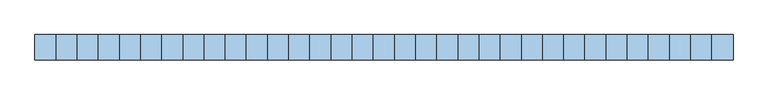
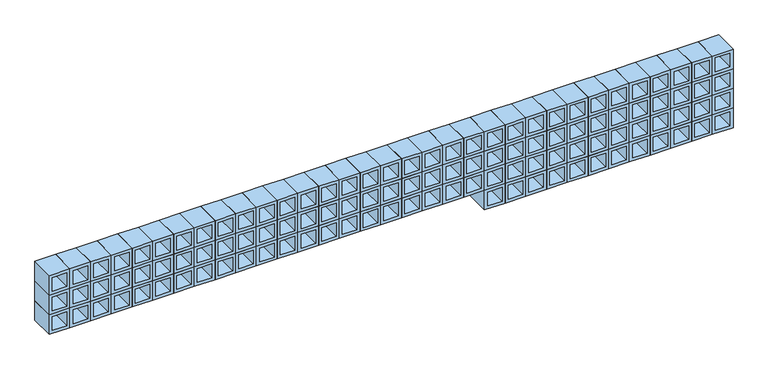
"""IFC4 building model written with IfcOpenShell, lengths in millimetres: window geometry, Concrete_Cobog_Hollow_block_14694 : Cobogó 3,25 x 0,80 m."""

from ifc_helpers import new_model, si_unit, frame, origin, place, context, project, spatial, polyline, outline, extrude, source, transform, mapped, element, save


def window_60306791(model_context):
    return source(origin(), model_context, "Body", "SweptSolid", [
        extrude(outline(polyline([(1400.0, 1650.0), (1500.0, 1650.0), (1500.0, 1550.0), (1400.0, 1550.0), (1400.0, 1650.0)]), holes=[polyline([(1485.0, 1565.0), (1485.0, 1635.0), (1415.0, 1635.0), (1415.0, 1565.0), (1485.0, 1565.0)])]), frame((0.0, -60.0, 0.0), z_axis=(0.0, 1.0, 0.0), x_axis=(0.0, 0.0, 1.0)), (0.0, 0.0, 1.0), 120.0),
        extrude(outline(polyline([(1400.0, 1550.0), (1500.0, 1550.0), (1500.0, 1450.0), (1400.0, 1450.0), (1400.0, 1550.0)]), holes=[polyline([(1485.0, 1465.0), (1485.0, 1535.0), (1415.0, 1535.0), (1415.0, 1465.0), (1485.0, 1465.0)])]), frame((0.0, -60.0, 0.0), z_axis=(0.0, 1.0, 0.0), x_axis=(0.0, 0.0, 1.0)), (0.0, 0.0, 1.0), 120.0),
        extrude(outline(polyline([(1400.0, 1450.0), (1500.0, 1450.0), (1500.0, 1350.0), (1400.0, 1350.0), (1400.0, 1450.0)]), holes=[polyline([(1485.0, 1365.0), (1485.0, 1435.0), (1415.0, 1435.0), (1415.0, 1365.0), (1485.0, 1365.0)])]), frame((0.0, -60.0, 0.0), z_axis=(0.0, 1.0, 0.0), x_axis=(0.0, 0.0, 1.0)), (0.0, 0.0, 1.0), 120.0),
        extrude(outline(polyline([(1400.0, 1350.0), (1500.0, 1350.0), (1500.0, 1250.0), (1400.0, 1250.0), (1400.0, 1350.0)]), holes=[polyline([(1485.0, 1265.0), (1485.0, 1335.0), (1415.0, 1335.0), (1415.0, 1265.0), (1485.0, 1265.0)])]), frame((0.0, -60.0, 0.0), z_axis=(0.0, 1.0, 0.0), x_axis=(0.0, 0.0, 1.0)), (0.0, 0.0, 1.0), 120.0),
        extrude(outline(polyline([(1400.0, 1250.0), (1500.0, 1250.0), (1500.0, 1150.0), (1400.0, 1150.0), (1400.0, 1250.0)]), holes=[polyline([(1485.0, 1165.0), (1485.0, 1235.0), (1415.0, 1235.0), (1415.0, 1165.0), (1485.0, 1165.0)])]), frame((0.0, -60.0, 0.0), z_axis=(0.0, 1.0, 0.0), x_axis=(0.0, 0.0, 1.0)), (0.0, 0.0, 1.0), 120.0),
        extrude(outline(polyline([(1400.0, 1150.0), (1500.0, 1150.0), (1500.0, 1050.0), (1400.0, 1050.0), (1400.0, 1150.0)]), holes=[polyline([(1485.0, 1065.0), (1485.0, 1135.0), (1415.0, 1135.0), (1415.0, 1065.0), (1485.0, 1065.0)])]), frame((0.0, -60.0, 0.0), z_axis=(0.0, 1.0, 0.0), x_axis=(0.0, 0.0, 1.0)), (0.0, 0.0, 1.0), 120.0),
        extrude(outline(polyline([(1400.0, 1050.0), (1500.0, 1050.0), (1500.0, 950.0), (1400.0, 950.0), (1400.0, 1050.0)]), holes=[polyline([(1485.0, 965.0), (1485.0, 1035.0), (1415.0, 1035.0), (1415.0, 965.0), (1485.0, 965.0)])]), frame((0.0, -60.0, 0.0), z_axis=(0.0, 1.0, 0.0), x_axis=(0.0, 0.0, 1.0)), (0.0, 0.0, 1.0), 120.0),
        extrude(outline(polyline([(1400.0, 950.0), (1500.0, 950.0), (1500.0, 850.0), (1400.0, 850.0), (1400.0, 950.0)]), holes=[polyline([(1485.0, 865.0), (1485.0, 935.0), (1415.0, 935.0), (1415.0, 865.0), (1485.0, 865.0)])]), frame((0.0, -60.0, 0.0), z_axis=(0.0, 1.0, 0.0), x_axis=(0.0, 0.0, 1.0)), (0.0, 0.0, 1.0), 120.0),
        extrude(outline(polyline([(1400.0, 850.0), (1500.0, 850.0), (1500.0, 750.0), (1400.0, 750.0), (1400.0, 850.0)]), holes=[polyline([(1485.0, 765.0), (1485.0, 835.0), (1415.0, 835.0), (1415.0, 765.0), (1485.0, 765.0)])]), frame((0.0, -60.0, 0.0), z_axis=(0.0, 1.0, 0.0), x_axis=(0.0, 0.0, 1.0)), (0.0, 0.0, 1.0), 120.0),
        extrude(outline(polyline([(1400.0, 750.0), (1500.0, 750.0), (1500.0, 650.0), (1400.0, 650.0), (1400.0, 750.0)]), holes=[polyline([(1485.0, 665.0), (1485.0, 735.0), (1415.0, 735.0), (1415.0, 665.0), (1485.0, 665.0)])]), frame((0.0, -60.0, 0.0), z_axis=(0.0, 1.0, 0.0), x_axis=(0.0, 0.0, 1.0)), (0.0, 0.0, 1.0), 120.0),
        extrude(outline(polyline([(1400.0, 650.0), (1500.0, 650.0), (1500.0, 550.0), (1400.0, 550.0), (1400.0, 650.0)]), holes=[polyline([(1485.0, 565.0), (1485.0, 635.0), (1415.0, 635.0), (1415.0, 565.0), (1485.0, 565.0)])]), frame((0.0, -60.0, 0.0), z_axis=(0.0, 1.0, 0.0), x_axis=(0.0, 0.0, 1.0)), (0.0, 0.0, 1.0), 120.0),
        extrude(outline(polyline([(1400.0, 550.0), (1500.0, 550.0), (1500.0, 450.0), (1400.0, 450.0), (1400.0, 550.0)]), holes=[polyline([(1485.0, 465.0), (1485.0, 535.0), (1415.0, 535.0), (1415.0, 465.0), (1485.0, 465.0)])]), frame((0.0, -60.0, 0.0), z_axis=(0.0, 1.0, 0.0), x_axis=(0.0, 0.0, 1.0)), (0.0, 0.0, 1.0), 120.0),
        extrude(outline(polyline([(1400.0, 450.0), (1500.0, 450.0), (1500.0, 350.0), (1400.0, 350.0), (1400.0, 450.0)]), holes=[polyline([(1485.0, 365.0), (1485.0, 435.0), (1415.0, 435.0), (1415.0, 365.0), (1485.0, 365.0)])]), frame((0.0, -60.0, 0.0), z_axis=(0.0, 1.0, 0.0), x_axis=(0.0, 0.0, 1.0)), (0.0, 0.0, 1.0), 120.0),
        extrude(outline(polyline([(1400.0, 350.0), (1500.0, 350.0), (1500.0, 250.0), (1400.0, 250.0), (1400.0, 350.0)]), holes=[polyline([(1485.0, 265.0), (1485.0, 335.0), (1415.0, 335.0), (1415.0, 265.0), (1485.0, 265.0)])]), frame((0.0, -60.0, 0.0), z_axis=(0.0, 1.0, 0.0), x_axis=(0.0, 0.0, 1.0)), (0.0, 0.0, 1.0), 120.0),
        extrude(outline(polyline([(1400.0, 250.0), (1500.0, 250.0), (1500.0, 150.0), (1400.0, 150.0), (1400.0, 250.0)]), holes=[polyline([(1485.0, 165.0), (1485.0, 235.0), (1415.0, 235.0), (1415.0, 165.0), (1485.0, 165.0)])]), frame((0.0, -60.0, 0.0), z_axis=(0.0, 1.0, 0.0), x_axis=(0.0, 0.0, 1.0)), (0.0, 0.0, 1.0), 120.0),
        extrude(outline(polyline([(1400.0, 150.0), (1500.0, 150.0), (1500.0, 50.0), (1400.0, 50.0), (1400.0, 150.0)]), holes=[polyline([(1485.0, 65.0), (1485.0, 135.0), (1415.0, 135.0), (1415.0, 65.0), (1485.0, 65.0)])]), frame((0.0, -60.0, 0.0), z_axis=(0.0, 1.0, 0.0), x_axis=(0.0, 0.0, 1.0)), (0.0, 0.0, 1.0), 120.0),
        extrude(outline(polyline([(1400.0, 50.0), (1500.0, 50.0), (1500.0, -50.0), (1400.0, -50.0), (1400.0, 50.0)]), holes=[polyline([(1485.0, -35.0), (1485.0, 35.0), (1415.0, 35.0), (1415.0, -35.0), (1485.0, -35.0)])]), frame((0.0, -60.0, 0.0), z_axis=(0.0, 1.0, 0.0), x_axis=(0.0, 0.0, 1.0)), (0.0, 0.0, 1.0), 120.0),
        extrude(outline(polyline([(1400.0, -50.0), (1500.0, -50.0), (1500.0, -150.0), (1400.0, -150.0), (1400.0, -50.0)]), holes=[polyline([(1485.0, -135.0), (1485.0, -65.0), (1415.0, -65.0), (1415.0, -135.0), (1485.0, -135.0)])]), frame((0.0, -60.0, 0.0), z_axis=(0.0, 1.0, 0.0), x_axis=(0.0, 0.0, 1.0)), (0.0, 0.0, 1.0), 120.0),
        extrude(outline(polyline([(1400.0, -150.0), (1500.0, -150.0), (1500.0, -250.0), (1400.0, -250.0), (1400.0, -150.0)]), holes=[polyline([(1485.0, -235.0), (1485.0, -165.0), (1415.0, -165.0), (1415.0, -235.0), (1485.0, -235.0)])]), frame((0.0, -60.0, 0.0), z_axis=(0.0, 1.0, 0.0), x_axis=(0.0, 0.0, 1.0)), (0.0, 0.0, 1.0), 120.0),
        extrude(outline(polyline([(1400.0, -250.0), (1500.0, -250.0), (1500.0, -350.0), (1400.0, -350.0), (1400.0, -250.0)]), holes=[polyline([(1485.0, -335.0), (1485.0, -265.0), (1415.0, -265.0), (1415.0, -335.0), (1485.0, -335.0)])]), frame((0.0, -60.0, 0.0), z_axis=(0.0, 1.0, 0.0), x_axis=(0.0, 0.0, 1.0)), (0.0, 0.0, 1.0), 120.0),
        extrude(outline(polyline([(1400.0, -350.0), (1500.0, -350.0), (1500.0, -450.0), (1400.0, -450.0), (1400.0, -350.0)]), holes=[polyline([(1485.0, -435.0), (1485.0, -365.0), (1415.0, -365.0), (1415.0, -435.0), (1485.0, -435.0)])]), frame((0.0, -60.0, 0.0), z_axis=(0.0, 1.0, 0.0), x_axis=(0.0, 0.0, 1.0)), (0.0, 0.0, 1.0), 120.0),
        extrude(outline(polyline([(1400.0, -450.0), (1500.0, -450.0), (1500.0, -550.0), (1400.0, -550.0), (1400.0, -450.0)]), holes=[polyline([(1485.0, -535.0), (1485.0, -465.0), (1415.0, -465.0), (1415.0, -535.0), (1485.0, -535.0)])]), frame((0.0, -60.0, 0.0), z_axis=(0.0, 1.0, 0.0), x_axis=(0.0, 0.0, 1.0)), (0.0, 0.0, 1.0), 120.0),
        extrude(outline(polyline([(1400.0, -550.0), (1500.0, -550.0), (1500.0, -650.0), (1400.0, -650.0), (1400.0, -550.0)]), holes=[polyline([(1485.0, -635.0), (1485.0, -565.0), (1415.0, -565.0), (1415.0, -635.0), (1485.0, -635.0)])]), frame((0.0, -60.0, 0.0), z_axis=(0.0, 1.0, 0.0), x_axis=(0.0, 0.0, 1.0)), (0.0, 0.0, 1.0), 120.0),
        extrude(outline(polyline([(1400.0, -650.0), (1500.0, -650.0), (1500.0, -750.0), (1400.0, -750.0), (1400.0, -650.0)]), holes=[polyline([(1485.0, -735.0), (1485.0, -665.0), (1415.0, -665.0), (1415.0, -735.0), (1485.0, -735.0)])]), frame((0.0, -60.0, 0.0), z_axis=(0.0, 1.0, 0.0), x_axis=(0.0, 0.0, 1.0)), (0.0, 0.0, 1.0), 120.0),
        extrude(outline(polyline([(1400.0, -750.0), (1500.0, -750.0), (1500.0, -850.0), (1400.0, -850.0), (1400.0, -750.0)]), holes=[polyline([(1485.0, -835.0), (1485.0, -765.0), (1415.0, -765.0), (1415.0, -835.0), (1485.0, -835.0)])]), frame((0.0, -60.0, 0.0), z_axis=(0.0, 1.0, 0.0), x_axis=(0.0, 0.0, 1.0)), (0.0, 0.0, 1.0), 120.0),
        extrude(outline(polyline([(1400.0, -850.0), (1500.0, -850.0), (1500.0, -950.0), (1400.0, -950.0), (1400.0, -850.0)]), holes=[polyline([(1485.0, -935.0), (1485.0, -865.0), (1415.0, -865.0), (1415.0, -935.0), (1485.0, -935.0)])]), frame((0.0, -60.0, 0.0), z_axis=(0.0, 1.0, 0.0), x_axis=(0.0, 0.0, 1.0)), (0.0, 0.0, 1.0), 120.0),
        extrude(outline(polyline([(1400.0, -950.0), (1500.0, -950.0), (1500.0, -1050.0), (1400.0, -1050.0), (1400.0, -950.0)]), holes=[polyline([(1485.0, -1035.0), (1485.0, -965.0), (1415.0, -965.0), (1415.0, -1035.0), (1485.0, -1035.0)])]), frame((0.0, -60.0, 0.0), z_axis=(0.0, 1.0, 0.0), x_axis=(0.0, 0.0, 1.0)), (0.0, 0.0, 1.0), 120.0),
        extrude(outline(polyline([(1400.0, -1050.0), (1500.0, -1050.0), (1500.0, -1150.0), (1400.0, -1150.0), (1400.0, -1050.0)]), holes=[polyline([(1485.0, -1135.0), (1485.0, -1065.0), (1415.0, -1065.0), (1415.0, -1135.0), (1485.0, -1135.0)])]), frame((0.0, -60.0, 0.0), z_axis=(0.0, 1.0, 0.0), x_axis=(0.0, 0.0, 1.0)), (0.0, 0.0, 1.0), 120.0),
        extrude(outline(polyline([(1400.0, -1150.0), (1500.0, -1150.0), (1500.0, -1250.0), (1400.0, -1250.0), (1400.0, -1150.0)]), holes=[polyline([(1485.0, -1235.0), (1485.0, -1165.0), (1415.0, -1165.0), (1415.0, -1235.0), (1485.0, -1235.0)])]), frame((0.0, -60.0, 0.0), z_axis=(0.0, 1.0, 0.0), x_axis=(0.0, 0.0, 1.0)), (0.0, 0.0, 1.0), 120.0),
        extrude(outline(polyline([(1400.0, -1250.0), (1500.0, -1250.0), (1500.0, -1350.0), (1400.0, -1350.0), (1400.0, -1250.0)]), holes=[polyline([(1485.0, -1335.0), (1485.0, -1265.0), (1415.0, -1265.0), (1415.0, -1335.0), (1485.0, -1335.0)])]), frame((0.0, -60.0, 0.0), z_axis=(0.0, 1.0, 0.0), x_axis=(0.0, 0.0, 1.0)), (0.0, 0.0, 1.0), 120.0),
        extrude(outline(polyline([(1400.0, -1350.0), (1500.0, -1350.0), (1500.0, -1450.0), (1400.0, -1450.0), (1400.0, -1350.0)]), holes=[polyline([(1485.0, -1435.0), (1485.0, -1365.0), (1415.0, -1365.0), (1415.0, -1435.0), (1485.0, -1435.0)])]), frame((0.0, -60.0, 0.0), z_axis=(0.0, 1.0, 0.0), x_axis=(0.0, 0.0, 1.0)), (0.0, 0.0, 1.0), 120.0),
        extrude(outline(polyline([(1400.0, -1450.0), (1500.0, -1450.0), (1500.0, -1550.0), (1400.0, -1550.0), (1400.0, -1450.0)]), holes=[polyline([(1485.0, -1535.0), (1485.0, -1465.0), (1415.0, -1465.0), (1415.0, -1535.0), (1485.0, -1535.0)])]), frame((0.0, -60.0, 0.0), z_axis=(0.0, 1.0, 0.0), x_axis=(0.0, 0.0, 1.0)), (0.0, 0.0, 1.0), 120.0),
        extrude(outline(polyline([(1400.0, -1550.0), (1500.0, -1550.0), (1500.0, -1650.0), (1400.0, -1650.0), (1400.0, -1550.0)]), holes=[polyline([(1485.0, -1635.0), (1485.0, -1565.0), (1415.0, -1565.0), (1415.0, -1635.0), (1485.0, -1635.0)])]), frame((0.0, -60.0, 0.0), z_axis=(0.0, 1.0, 0.0), x_axis=(0.0, 0.0, 1.0)), (0.0, 0.0, 1.0), 120.0),
        extrude(outline(polyline([(1300.0, 1650.0), (1400.0, 1650.0), (1400.0, 1550.0), (1300.0, 1550.0), (1300.0, 1650.0)]), holes=[polyline([(1385.0, 1565.0), (1385.0, 1635.0), (1315.0, 1635.0), (1315.0, 1565.0), (1385.0, 1565.0)])]), frame((0.0, -60.0, 0.0), z_axis=(0.0, 1.0, 0.0), x_axis=(0.0, 0.0, 1.0)), (0.0, 0.0, 1.0), 120.0),
        extrude(outline(polyline([(1300.0, 1550.0), (1400.0, 1550.0), (1400.0, 1450.0), (1300.0, 1450.0), (1300.0, 1550.0)]), holes=[polyline([(1385.0, 1465.0), (1385.0, 1535.0), (1315.0, 1535.0), (1315.0, 1465.0), (1385.0, 1465.0)])]), frame((0.0, -60.0, 0.0), z_axis=(0.0, 1.0, 0.0), x_axis=(0.0, 0.0, 1.0)), (0.0, 0.0, 1.0), 120.0),
        extrude(outline(polyline([(1300.0, 1450.0), (1400.0, 1450.0), (1400.0, 1350.0), (1300.0, 1350.0), (1300.0, 1450.0)]), holes=[polyline([(1385.0, 1365.0), (1385.0, 1435.0), (1315.0, 1435.0), (1315.0, 1365.0), (1385.0, 1365.0)])]), frame((0.0, -60.0, 0.0), z_axis=(0.0, 1.0, 0.0), x_axis=(0.0, 0.0, 1.0)), (0.0, 0.0, 1.0), 120.0),
        extrude(outline(polyline([(1300.0, 1350.0), (1400.0, 1350.0), (1400.0, 1250.0), (1300.0, 1250.0), (1300.0, 1350.0)]), holes=[polyline([(1385.0, 1265.0), (1385.0, 1335.0), (1315.0, 1335.0), (1315.0, 1265.0), (1385.0, 1265.0)])]), frame((0.0, -60.0, 0.0), z_axis=(0.0, 1.0, 0.0), x_axis=(0.0, 0.0, 1.0)), (0.0, 0.0, 1.0), 120.0),
        extrude(outline(polyline([(1300.0, 1250.0), (1400.0, 1250.0), (1400.0, 1150.0), (1300.0, 1150.0), (1300.0, 1250.0)]), holes=[polyline([(1385.0, 1165.0), (1385.0, 1235.0), (1315.0, 1235.0), (1315.0, 1165.0), (1385.0, 1165.0)])]), frame((0.0, -60.0, 0.0), z_axis=(0.0, 1.0, 0.0), x_axis=(0.0, 0.0, 1.0)), (0.0, 0.0, 1.0), 120.0),
        extrude(outline(polyline([(1300.0, 1150.0), (1400.0, 1150.0), (1400.0, 1050.0), (1300.0, 1050.0), (1300.0, 1150.0)]), holes=[polyline([(1385.0, 1065.0), (1385.0, 1135.0), (1315.0, 1135.0), (1315.0, 1065.0), (1385.0, 1065.0)])]), frame((0.0, -60.0, 0.0), z_axis=(0.0, 1.0, 0.0), x_axis=(0.0, 0.0, 1.0)), (0.0, 0.0, 1.0), 120.0),
        extrude(outline(polyline([(1300.0, 1050.0), (1400.0, 1050.0), (1400.0, 950.0), (1300.0, 950.0), (1300.0, 1050.0)]), holes=[polyline([(1385.0, 965.0), (1385.0, 1035.0), (1315.0, 1035.0), (1315.0, 965.0), (1385.0, 965.0)])]), frame((0.0, -60.0, 0.0), z_axis=(0.0, 1.0, 0.0), x_axis=(0.0, 0.0, 1.0)), (0.0, 0.0, 1.0), 120.0),
        extrude(outline(polyline([(1300.0, 950.0), (1400.0, 950.0), (1400.0, 850.0), (1300.0, 850.0), (1300.0, 950.0)]), holes=[polyline([(1385.0, 865.0), (1385.0, 935.0), (1315.0, 935.0), (1315.0, 865.0), (1385.0, 865.0)])]), frame((0.0, -60.0, 0.0), z_axis=(0.0, 1.0, 0.0), x_axis=(0.0, 0.0, 1.0)), (0.0, 0.0, 1.0), 120.0),
        extrude(outline(polyline([(1300.0, 850.0), (1400.0, 850.0), (1400.0, 750.0), (1300.0, 750.0), (1300.0, 850.0)]), holes=[polyline([(1385.0, 765.0), (1385.0, 835.0), (1315.0, 835.0), (1315.0, 765.0), (1385.0, 765.0)])]), frame((0.0, -60.0, 0.0), z_axis=(0.0, 1.0, 0.0), x_axis=(0.0, 0.0, 1.0)), (0.0, 0.0, 1.0), 120.0),
        extrude(outline(polyline([(1300.0, 750.0), (1400.0, 750.0), (1400.0, 650.0), (1300.0, 650.0), (1300.0, 750.0)]), holes=[polyline([(1385.0, 665.0), (1385.0, 735.0), (1315.0, 735.0), (1315.0, 665.0), (1385.0, 665.0)])]), frame((0.0, -60.0, 0.0), z_axis=(0.0, 1.0, 0.0), x_axis=(0.0, 0.0, 1.0)), (0.0, 0.0, 1.0), 120.0),
        extrude(outline(polyline([(1300.0, 650.0), (1400.0, 650.0), (1400.0, 550.0), (1300.0, 550.0), (1300.0, 650.0)]), holes=[polyline([(1385.0, 565.0), (1385.0, 635.0), (1315.0, 635.0), (1315.0, 565.0), (1385.0, 565.0)])]), frame((0.0, -60.0, 0.0), z_axis=(0.0, 1.0, 0.0), x_axis=(0.0, 0.0, 1.0)), (0.0, 0.0, 1.0), 120.0),
        extrude(outline(polyline([(1300.0, 550.0), (1400.0, 550.0), (1400.0, 450.0), (1300.0, 450.0), (1300.0, 550.0)]), holes=[polyline([(1385.0, 465.0), (1385.0, 535.0), (1315.0, 535.0), (1315.0, 465.0), (1385.0, 465.0)])]), frame((0.0, -60.0, 0.0), z_axis=(0.0, 1.0, 0.0), x_axis=(0.0, 0.0, 1.0)), (0.0, 0.0, 1.0), 120.0),
        extrude(outline(polyline([(1300.0, 450.0), (1400.0, 450.0), (1400.0, 350.0), (1300.0, 350.0), (1300.0, 450.0)]), holes=[polyline([(1385.0, 365.0), (1385.0, 435.0), (1315.0, 435.0), (1315.0, 365.0), (1385.0, 365.0)])]), frame((0.0, -60.0, 0.0), z_axis=(0.0, 1.0, 0.0), x_axis=(0.0, 0.0, 1.0)), (0.0, 0.0, 1.0), 120.0),
        extrude(outline(polyline([(1300.0, 350.0), (1400.0, 350.0), (1400.0, 250.0), (1300.0, 250.0), (1300.0, 350.0)]), holes=[polyline([(1385.0, 265.0), (1385.0, 335.0), (1315.0, 335.0), (1315.0, 265.0), (1385.0, 265.0)])]), frame((0.0, -60.0, 0.0), z_axis=(0.0, 1.0, 0.0), x_axis=(0.0, 0.0, 1.0)), (0.0, 0.0, 1.0), 120.0),
        extrude(outline(polyline([(1300.0, 250.0), (1400.0, 250.0), (1400.0, 150.0), (1300.0, 150.0), (1300.0, 250.0)]), holes=[polyline([(1385.0, 165.0), (1385.0, 235.0), (1315.0, 235.0), (1315.0, 165.0), (1385.0, 165.0)])]), frame((0.0, -60.0, 0.0), z_axis=(0.0, 1.0, 0.0), x_axis=(0.0, 0.0, 1.0)), (0.0, 0.0, 1.0), 120.0),
        extrude(outline(polyline([(1300.0, 150.0), (1400.0, 150.0), (1400.0, 50.0), (1300.0, 50.0), (1300.0, 150.0)]), holes=[polyline([(1385.0, 65.0), (1385.0, 135.0), (1315.0, 135.0), (1315.0, 65.0), (1385.0, 65.0)])]), frame((0.0, -60.0, 0.0), z_axis=(0.0, 1.0, 0.0), x_axis=(0.0, 0.0, 1.0)), (0.0, 0.0, 1.0), 120.0),
        extrude(outline(polyline([(1300.0, 50.0), (1400.0, 50.0), (1400.0, -50.0), (1300.0, -50.0), (1300.0, 50.0)]), holes=[polyline([(1385.0, -35.0), (1385.0, 35.0), (1315.0, 35.0), (1315.0, -35.0), (1385.0, -35.0)])]), frame((0.0, -60.0, 0.0), z_axis=(0.0, 1.0, 0.0), x_axis=(0.0, 0.0, 1.0)), (0.0, 0.0, 1.0), 120.0),
        extrude(outline(polyline([(1300.0, -50.0), (1400.0, -50.0), (1400.0, -150.0), (1300.0, -150.0), (1300.0, -50.0)]), holes=[polyline([(1385.0, -135.0), (1385.0, -65.0), (1315.0, -65.0), (1315.0, -135.0), (1385.0, -135.0)])]), frame((0.0, -60.0, 0.0), z_axis=(0.0, 1.0, 0.0), x_axis=(0.0, 0.0, 1.0)), (0.0, 0.0, 1.0), 120.0),
        extrude(outline(polyline([(1300.0, -150.0), (1400.0, -150.0), (1400.0, -250.0), (1300.0, -250.0), (1300.0, -150.0)]), holes=[polyline([(1385.0, -235.0), (1385.0, -165.0), (1315.0, -165.0), (1315.0, -235.0), (1385.0, -235.0)])]), frame((0.0, -60.0, 0.0), z_axis=(0.0, 1.0, 0.0), x_axis=(0.0, 0.0, 1.0)), (0.0, 0.0, 1.0), 120.0),
        extrude(outline(polyline([(1300.0, -250.0), (1400.0, -250.0), (1400.0, -350.0), (1300.0, -350.0), (1300.0, -250.0)]), holes=[polyline([(1385.0, -335.0), (1385.0, -265.0), (1315.0, -265.0), (1315.0, -335.0), (1385.0, -335.0)])]), frame((0.0, -60.0, 0.0), z_axis=(0.0, 1.0, 0.0), x_axis=(0.0, 0.0, 1.0)), (0.0, 0.0, 1.0), 120.0),
        extrude(outline(polyline([(1300.0, -350.0), (1400.0, -350.0), (1400.0, -450.0), (1300.0, -450.0), (1300.0, -350.0)]), holes=[polyline([(1385.0, -435.0), (1385.0, -365.0), (1315.0, -365.0), (1315.0, -435.0), (1385.0, -435.0)])]), frame((0.0, -60.0, 0.0), z_axis=(0.0, 1.0, 0.0), x_axis=(0.0, 0.0, 1.0)), (0.0, 0.0, 1.0), 120.0),
        extrude(outline(polyline([(1300.0, -450.0), (1400.0, -450.0), (1400.0, -550.0), (1300.0, -550.0), (1300.0, -450.0)]), holes=[polyline([(1385.0, -535.0), (1385.0, -465.0), (1315.0, -465.0), (1315.0, -535.0), (1385.0, -535.0)])]), frame((0.0, -60.0, 0.0), z_axis=(0.0, 1.0, 0.0), x_axis=(0.0, 0.0, 1.0)), (0.0, 0.0, 1.0), 120.0),
        extrude(outline(polyline([(1300.0, -550.0), (1400.0, -550.0), (1400.0, -650.0), (1300.0, -650.0), (1300.0, -550.0)]), holes=[polyline([(1385.0, -635.0), (1385.0, -565.0), (1315.0, -565.0), (1315.0, -635.0), (1385.0, -635.0)])]), frame((0.0, -60.0, 0.0), z_axis=(0.0, 1.0, 0.0), x_axis=(0.0, 0.0, 1.0)), (0.0, 0.0, 1.0), 120.0),
        extrude(outline(polyline([(1300.0, -650.0), (1400.0, -650.0), (1400.0, -750.0), (1300.0, -750.0), (1300.0, -650.0)]), holes=[polyline([(1385.0, -735.0), (1385.0, -665.0), (1315.0, -665.0), (1315.0, -735.0), (1385.0, -735.0)])]), frame((0.0, -60.0, 0.0), z_axis=(0.0, 1.0, 0.0), x_axis=(0.0, 0.0, 1.0)), (0.0, 0.0, 1.0), 120.0),
        extrude(outline(polyline([(1300.0, -750.0), (1400.0, -750.0), (1400.0, -850.0), (1300.0, -850.0), (1300.0, -750.0)]), holes=[polyline([(1385.0, -835.0), (1385.0, -765.0), (1315.0, -765.0), (1315.0, -835.0), (1385.0, -835.0)])]), frame((0.0, -60.0, 0.0), z_axis=(0.0, 1.0, 0.0), x_axis=(0.0, 0.0, 1.0)), (0.0, 0.0, 1.0), 120.0),
        extrude(outline(polyline([(1300.0, -850.0), (1400.0, -850.0), (1400.0, -950.0), (1300.0, -950.0), (1300.0, -850.0)]), holes=[polyline([(1385.0, -935.0), (1385.0, -865.0), (1315.0, -865.0), (1315.0, -935.0), (1385.0, -935.0)])]), frame((0.0, -60.0, 0.0), z_axis=(0.0, 1.0, 0.0), x_axis=(0.0, 0.0, 1.0)), (0.0, 0.0, 1.0), 120.0),
        extrude(outline(polyline([(1300.0, -950.0), (1400.0, -950.0), (1400.0, -1050.0), (1300.0, -1050.0), (1300.0, -950.0)]), holes=[polyline([(1385.0, -1035.0), (1385.0, -965.0), (1315.0, -965.0), (1315.0, -1035.0), (1385.0, -1035.0)])]), frame((0.0, -60.0, 0.0), z_axis=(0.0, 1.0, 0.0), x_axis=(0.0, 0.0, 1.0)), (0.0, 0.0, 1.0), 120.0),
        extrude(outline(polyline([(1300.0, -1050.0), (1400.0, -1050.0), (1400.0, -1150.0), (1300.0, -1150.0), (1300.0, -1050.0)]), holes=[polyline([(1385.0, -1135.0), (1385.0, -1065.0), (1315.0, -1065.0), (1315.0, -1135.0), (1385.0, -1135.0)])]), frame((0.0, -60.0, 0.0), z_axis=(0.0, 1.0, 0.0), x_axis=(0.0, 0.0, 1.0)), (0.0, 0.0, 1.0), 120.0),
        extrude(outline(polyline([(1300.0, -1150.0), (1400.0, -1150.0), (1400.0, -1250.0), (1300.0, -1250.0), (1300.0, -1150.0)]), holes=[polyline([(1385.0, -1235.0), (1385.0, -1165.0), (1315.0, -1165.0), (1315.0, -1235.0), (1385.0, -1235.0)])]), frame((0.0, -60.0, 0.0), z_axis=(0.0, 1.0, 0.0), x_axis=(0.0, 0.0, 1.0)), (0.0, 0.0, 1.0), 120.0),
        extrude(outline(polyline([(1300.0, -1250.0), (1400.0, -1250.0), (1400.0, -1350.0), (1300.0, -1350.0), (1300.0, -1250.0)]), holes=[polyline([(1385.0, -1335.0), (1385.0, -1265.0), (1315.0, -1265.0), (1315.0, -1335.0), (1385.0, -1335.0)])]), frame((0.0, -60.0, 0.0), z_axis=(0.0, 1.0, 0.0), x_axis=(0.0, 0.0, 1.0)), (0.0, 0.0, 1.0), 120.0),
        extrude(outline(polyline([(1300.0, -1350.0), (1400.0, -1350.0), (1400.0, -1450.0), (1300.0, -1450.0), (1300.0, -1350.0)]), holes=[polyline([(1385.0, -1435.0), (1385.0, -1365.0), (1315.0, -1365.0), (1315.0, -1435.0), (1385.0, -1435.0)])]), frame((0.0, -60.0, 0.0), z_axis=(0.0, 1.0, 0.0), x_axis=(0.0, 0.0, 1.0)), (0.0, 0.0, 1.0), 120.0),
        extrude(outline(polyline([(1300.0, -1450.0), (1400.0, -1450.0), (1400.0, -1550.0), (1300.0, -1550.0), (1300.0, -1450.0)]), holes=[polyline([(1385.0, -1535.0), (1385.0, -1465.0), (1315.0, -1465.0), (1315.0, -1535.0), (1385.0, -1535.0)])]), frame((0.0, -60.0, 0.0), z_axis=(0.0, 1.0, 0.0), x_axis=(0.0, 0.0, 1.0)), (0.0, 0.0, 1.0), 120.0),
        extrude(outline(polyline([(1300.0, -1550.0), (1400.0, -1550.0), (1400.0, -1650.0), (1300.0, -1650.0), (1300.0, -1550.0)]), holes=[polyline([(1385.0, -1635.0), (1385.0, -1565.0), (1315.0, -1565.0), (1315.0, -1635.0), (1385.0, -1635.0)])]), frame((0.0, -60.0, 0.0), z_axis=(0.0, 1.0, 0.0), x_axis=(0.0, 0.0, 1.0)), (0.0, 0.0, 1.0), 120.0),
        extrude(outline(polyline([(1200.0, 1650.0), (1300.0, 1650.0), (1300.0, 1550.0), (1200.0, 1550.0), (1200.0, 1650.0)]), holes=[polyline([(1285.0, 1565.0), (1285.0, 1635.0), (1215.0, 1635.0), (1215.0, 1565.0), (1285.0, 1565.0)])]), frame((0.0, -60.0, 0.0), z_axis=(0.0, 1.0, 0.0), x_axis=(0.0, 0.0, 1.0)), (0.0, 0.0, 1.0), 120.0),
        extrude(outline(polyline([(1200.0, 1550.0), (1300.0, 1550.0), (1300.0, 1450.0), (1200.0, 1450.0), (1200.0, 1550.0)]), holes=[polyline([(1285.0, 1465.0), (1285.0, 1535.0), (1215.0, 1535.0), (1215.0, 1465.0), (1285.0, 1465.0)])]), frame((0.0, -60.0, 0.0), z_axis=(0.0, 1.0, 0.0), x_axis=(0.0, 0.0, 1.0)), (0.0, 0.0, 1.0), 120.0),
        extrude(outline(polyline([(1200.0, 1450.0), (1300.0, 1450.0), (1300.0, 1350.0), (1200.0, 1350.0), (1200.0, 1450.0)]), holes=[polyline([(1285.0, 1365.0), (1285.0, 1435.0), (1215.0, 1435.0), (1215.0, 1365.0), (1285.0, 1365.0)])]), frame((0.0, -60.0, 0.0), z_axis=(0.0, 1.0, 0.0), x_axis=(0.0, 0.0, 1.0)), (0.0, 0.0, 1.0), 120.0),
        extrude(outline(polyline([(1200.0, 1350.0), (1300.0, 1350.0), (1300.0, 1250.0), (1200.0, 1250.0), (1200.0, 1350.0)]), holes=[polyline([(1285.0, 1265.0), (1285.0, 1335.0), (1215.0, 1335.0), (1215.0, 1265.0), (1285.0, 1265.0)])]), frame((0.0, -60.0, 0.0), z_axis=(0.0, 1.0, 0.0), x_axis=(0.0, 0.0, 1.0)), (0.0, 0.0, 1.0), 120.0),
        extrude(outline(polyline([(1200.0, 1250.0), (1300.0, 1250.0), (1300.0, 1150.0), (1200.0, 1150.0), (1200.0, 1250.0)]), holes=[polyline([(1285.0, 1165.0), (1285.0, 1235.0), (1215.0, 1235.0), (1215.0, 1165.0), (1285.0, 1165.0)])]), frame((0.0, -60.0, 0.0), z_axis=(0.0, 1.0, 0.0), x_axis=(0.0, 0.0, 1.0)), (0.0, 0.0, 1.0), 120.0),
        extrude(outline(polyline([(1200.0, 1150.0), (1300.0, 1150.0), (1300.0, 1050.0), (1200.0, 1050.0), (1200.0, 1150.0)]), holes=[polyline([(1285.0, 1065.0), (1285.0, 1135.0), (1215.0, 1135.0), (1215.0, 1065.0), (1285.0, 1065.0)])]), frame((0.0, -60.0, 0.0), z_axis=(0.0, 1.0, 0.0), x_axis=(0.0, 0.0, 1.0)), (0.0, 0.0, 1.0), 120.0),
        extrude(outline(polyline([(1200.0, 1050.0), (1300.0, 1050.0), (1300.0, 950.0), (1200.0, 950.0), (1200.0, 1050.0)]), holes=[polyline([(1285.0, 965.0), (1285.0, 1035.0), (1215.0, 1035.0), (1215.0, 965.0), (1285.0, 965.0)])]), frame((0.0, -60.0, 0.0), z_axis=(0.0, 1.0, 0.0), x_axis=(0.0, 0.0, 1.0)), (0.0, 0.0, 1.0), 120.0),
        extrude(outline(polyline([(1200.0, 950.0), (1300.0, 950.0), (1300.0, 850.0), (1200.0, 850.0), (1200.0, 950.0)]), holes=[polyline([(1285.0, 865.0), (1285.0, 935.0), (1215.0, 935.0), (1215.0, 865.0), (1285.0, 865.0)])]), frame((0.0, -60.0, 0.0), z_axis=(0.0, 1.0, 0.0), x_axis=(0.0, 0.0, 1.0)), (0.0, 0.0, 1.0), 120.0),
        extrude(outline(polyline([(1200.0, 850.0), (1300.0, 850.0), (1300.0, 750.0), (1200.0, 750.0), (1200.0, 850.0)]), holes=[polyline([(1285.0, 765.0), (1285.0, 835.0), (1215.0, 835.0), (1215.0, 765.0), (1285.0, 765.0)])]), frame((0.0, -60.0, 0.0), z_axis=(0.0, 1.0, 0.0), x_axis=(0.0, 0.0, 1.0)), (0.0, 0.0, 1.0), 120.0),
        extrude(outline(polyline([(1200.0, 750.0), (1300.0, 750.0), (1300.0, 650.0), (1200.0, 650.0), (1200.0, 750.0)]), holes=[polyline([(1285.0, 665.0), (1285.0, 735.0), (1215.0, 735.0), (1215.0, 665.0), (1285.0, 665.0)])]), frame((0.0, -60.0, 0.0), z_axis=(0.0, 1.0, 0.0), x_axis=(0.0, 0.0, 1.0)), (0.0, 0.0, 1.0), 120.0),
        extrude(outline(polyline([(1200.0, 650.0), (1300.0, 650.0), (1300.0, 550.0), (1200.0, 550.0), (1200.0, 650.0)]), holes=[polyline([(1285.0, 565.0), (1285.0, 635.0), (1215.0, 635.0), (1215.0, 565.0), (1285.0, 565.0)])]), frame((0.0, -60.0, 0.0), z_axis=(0.0, 1.0, 0.0), x_axis=(0.0, 0.0, 1.0)), (0.0, 0.0, 1.0), 120.0),
        extrude(outline(polyline([(1200.0, 550.0), (1300.0, 550.0), (1300.0, 450.0), (1200.0, 450.0), (1200.0, 550.0)]), holes=[polyline([(1285.0, 465.0), (1285.0, 535.0), (1215.0, 535.0), (1215.0, 465.0), (1285.0, 465.0)])]), frame((0.0, -60.0, 0.0), z_axis=(0.0, 1.0, 0.0), x_axis=(0.0, 0.0, 1.0)), (0.0, 0.0, 1.0), 120.0),
        extrude(outline(polyline([(1200.0, 450.0), (1300.0, 450.0), (1300.0, 350.0), (1200.0, 350.0), (1200.0, 450.0)]), holes=[polyline([(1285.0, 365.0), (1285.0, 435.0), (1215.0, 435.0), (1215.0, 365.0), (1285.0, 365.0)])]), frame((0.0, -60.0, 0.0), z_axis=(0.0, 1.0, 0.0), x_axis=(0.0, 0.0, 1.0)), (0.0, 0.0, 1.0), 120.0),
        extrude(outline(polyline([(1200.0, 350.0), (1300.0, 350.0), (1300.0, 250.0), (1200.0, 250.0), (1200.0, 350.0)]), holes=[polyline([(1285.0, 265.0), (1285.0, 335.0), (1215.0, 335.0), (1215.0, 265.0), (1285.0, 265.0)])]), frame((0.0, -60.0, 0.0), z_axis=(0.0, 1.0, 0.0), x_axis=(0.0, 0.0, 1.0)), (0.0, 0.0, 1.0), 120.0),
        extrude(outline(polyline([(1200.0, 250.0), (1300.0, 250.0), (1300.0, 150.0), (1200.0, 150.0), (1200.0, 250.0)]), holes=[polyline([(1285.0, 165.0), (1285.0, 235.0), (1215.0, 235.0), (1215.0, 165.0), (1285.0, 165.0)])]), frame((0.0, -60.0, 0.0), z_axis=(0.0, 1.0, 0.0), x_axis=(0.0, 0.0, 1.0)), (0.0, 0.0, 1.0), 120.0),
        extrude(outline(polyline([(1200.0, 150.0), (1300.0, 150.0), (1300.0, 50.0), (1200.0, 50.0), (1200.0, 150.0)]), holes=[polyline([(1285.0, 65.0), (1285.0, 135.0), (1215.0, 135.0), (1215.0, 65.0), (1285.0, 65.0)])]), frame((0.0, -60.0, 0.0), z_axis=(0.0, 1.0, 0.0), x_axis=(0.0, 0.0, 1.0)), (0.0, 0.0, 1.0), 120.0),
        extrude(outline(polyline([(1200.0, 50.0), (1300.0, 50.0), (1300.0, -50.0), (1200.0, -50.0), (1200.0, 50.0)]), holes=[polyline([(1285.0, -35.0), (1285.0, 35.0), (1215.0, 35.0), (1215.0, -35.0), (1285.0, -35.0)])]), frame((0.0, -60.0, 0.0), z_axis=(0.0, 1.0, 0.0), x_axis=(0.0, 0.0, 1.0)), (0.0, 0.0, 1.0), 120.0),
        extrude(outline(polyline([(1200.0, -50.0), (1300.0, -50.0), (1300.0, -150.0), (1200.0, -150.0), (1200.0, -50.0)]), holes=[polyline([(1285.0, -135.0), (1285.0, -65.0), (1215.0, -65.0), (1215.0, -135.0), (1285.0, -135.0)])]), frame((0.0, -60.0, 0.0), z_axis=(0.0, 1.0, 0.0), x_axis=(0.0, 0.0, 1.0)), (0.0, 0.0, 1.0), 120.0),
        extrude(outline(polyline([(1200.0, -150.0), (1300.0, -150.0), (1300.0, -250.0), (1200.0, -250.0), (1200.0, -150.0)]), holes=[polyline([(1285.0, -235.0), (1285.0, -165.0), (1215.0, -165.0), (1215.0, -235.0), (1285.0, -235.0)])]), frame((0.0, -60.0, 0.0), z_axis=(0.0, 1.0, 0.0), x_axis=(0.0, 0.0, 1.0)), (0.0, 0.0, 1.0), 120.0),
        extrude(outline(polyline([(1200.0, -250.0), (1300.0, -250.0), (1300.0, -350.0), (1200.0, -350.0), (1200.0, -250.0)]), holes=[polyline([(1285.0, -335.0), (1285.0, -265.0), (1215.0, -265.0), (1215.0, -335.0), (1285.0, -335.0)])]), frame((0.0, -60.0, 0.0), z_axis=(0.0, 1.0, 0.0), x_axis=(0.0, 0.0, 1.0)), (0.0, 0.0, 1.0), 120.0),
        extrude(outline(polyline([(1200.0, -350.0), (1300.0, -350.0), (1300.0, -450.0), (1200.0, -450.0), (1200.0, -350.0)]), holes=[polyline([(1285.0, -435.0), (1285.0, -365.0), (1215.0, -365.0), (1215.0, -435.0), (1285.0, -435.0)])]), frame((0.0, -60.0, 0.0), z_axis=(0.0, 1.0, 0.0), x_axis=(0.0, 0.0, 1.0)), (0.0, 0.0, 1.0), 120.0),
        extrude(outline(polyline([(1200.0, -450.0), (1300.0, -450.0), (1300.0, -550.0), (1200.0, -550.0), (1200.0, -450.0)]), holes=[polyline([(1285.0, -535.0), (1285.0, -465.0), (1215.0, -465.0), (1215.0, -535.0), (1285.0, -535.0)])]), frame((0.0, -60.0, 0.0), z_axis=(0.0, 1.0, 0.0), x_axis=(0.0, 0.0, 1.0)), (0.0, 0.0, 1.0), 120.0),
        extrude(outline(polyline([(1200.0, -550.0), (1300.0, -550.0), (1300.0, -650.0), (1200.0, -650.0), (1200.0, -550.0)]), holes=[polyline([(1285.0, -635.0), (1285.0, -565.0), (1215.0, -565.0), (1215.0, -635.0), (1285.0, -635.0)])]), frame((0.0, -60.0, 0.0), z_axis=(0.0, 1.0, 0.0), x_axis=(0.0, 0.0, 1.0)), (0.0, 0.0, 1.0), 120.0),
        extrude(outline(polyline([(1200.0, -650.0), (1300.0, -650.0), (1300.0, -750.0), (1200.0, -750.0), (1200.0, -650.0)]), holes=[polyline([(1285.0, -735.0), (1285.0, -665.0), (1215.0, -665.0), (1215.0, -735.0), (1285.0, -735.0)])]), frame((0.0, -60.0, 0.0), z_axis=(0.0, 1.0, 0.0), x_axis=(0.0, 0.0, 1.0)), (0.0, 0.0, 1.0), 120.0),
        extrude(outline(polyline([(1200.0, -750.0), (1300.0, -750.0), (1300.0, -850.0), (1200.0, -850.0), (1200.0, -750.0)]), holes=[polyline([(1285.0, -835.0), (1285.0, -765.0), (1215.0, -765.0), (1215.0, -835.0), (1285.0, -835.0)])]), frame((0.0, -60.0, 0.0), z_axis=(0.0, 1.0, 0.0), x_axis=(0.0, 0.0, 1.0)), (0.0, 0.0, 1.0), 120.0),
        extrude(outline(polyline([(1200.0, -850.0), (1300.0, -850.0), (1300.0, -950.0), (1200.0, -950.0), (1200.0, -850.0)]), holes=[polyline([(1285.0, -935.0), (1285.0, -865.0), (1215.0, -865.0), (1215.0, -935.0), (1285.0, -935.0)])]), frame((0.0, -60.0, 0.0), z_axis=(0.0, 1.0, 0.0), x_axis=(0.0, 0.0, 1.0)), (0.0, 0.0, 1.0), 120.0),
        extrude(outline(polyline([(1200.0, -950.0), (1300.0, -950.0), (1300.0, -1050.0), (1200.0, -1050.0), (1200.0, -950.0)]), holes=[polyline([(1285.0, -1035.0), (1285.0, -965.0), (1215.0, -965.0), (1215.0, -1035.0), (1285.0, -1035.0)])]), frame((0.0, -60.0, 0.0), z_axis=(0.0, 1.0, 0.0), x_axis=(0.0, 0.0, 1.0)), (0.0, 0.0, 1.0), 120.0),
        extrude(outline(polyline([(1200.0, -1050.0), (1300.0, -1050.0), (1300.0, -1150.0), (1200.0, -1150.0), (1200.0, -1050.0)]), holes=[polyline([(1285.0, -1135.0), (1285.0, -1065.0), (1215.0, -1065.0), (1215.0, -1135.0), (1285.0, -1135.0)])]), frame((0.0, -60.0, 0.0), z_axis=(0.0, 1.0, 0.0), x_axis=(0.0, 0.0, 1.0)), (0.0, 0.0, 1.0), 120.0),
        extrude(outline(polyline([(1200.0, -1150.0), (1300.0, -1150.0), (1300.0, -1250.0), (1200.0, -1250.0), (1200.0, -1150.0)]), holes=[polyline([(1285.0, -1235.0), (1285.0, -1165.0), (1215.0, -1165.0), (1215.0, -1235.0), (1285.0, -1235.0)])]), frame((0.0, -60.0, 0.0), z_axis=(0.0, 1.0, 0.0), x_axis=(0.0, 0.0, 1.0)), (0.0, 0.0, 1.0), 120.0),
        extrude(outline(polyline([(1200.0, -1250.0), (1300.0, -1250.0), (1300.0, -1350.0), (1200.0, -1350.0), (1200.0, -1250.0)]), holes=[polyline([(1285.0, -1335.0), (1285.0, -1265.0), (1215.0, -1265.0), (1215.0, -1335.0), (1285.0, -1335.0)])]), frame((0.0, -60.0, 0.0), z_axis=(0.0, 1.0, 0.0), x_axis=(0.0, 0.0, 1.0)), (0.0, 0.0, 1.0), 120.0),
        extrude(outline(polyline([(1200.0, -1350.0), (1300.0, -1350.0), (1300.0, -1450.0), (1200.0, -1450.0), (1200.0, -1350.0)]), holes=[polyline([(1285.0, -1435.0), (1285.0, -1365.0), (1215.0, -1365.0), (1215.0, -1435.0), (1285.0, -1435.0)])]), frame((0.0, -60.0, 0.0), z_axis=(0.0, 1.0, 0.0), x_axis=(0.0, 0.0, 1.0)), (0.0, 0.0, 1.0), 120.0),
        extrude(outline(polyline([(1200.0, -1450.0), (1300.0, -1450.0), (1300.0, -1550.0), (1200.0, -1550.0), (1200.0, -1450.0)]), holes=[polyline([(1285.0, -1535.0), (1285.0, -1465.0), (1215.0, -1465.0), (1215.0, -1535.0), (1285.0, -1535.0)])]), frame((0.0, -60.0, 0.0), z_axis=(0.0, 1.0, 0.0), x_axis=(0.0, 0.0, 1.0)), (0.0, 0.0, 1.0), 120.0),
        extrude(outline(polyline([(1200.0, -1550.0), (1300.0, -1550.0), (1300.0, -1650.0), (1200.0, -1650.0), (1200.0, -1550.0)]), holes=[polyline([(1285.0, -1635.0), (1285.0, -1565.0), (1215.0, -1565.0), (1215.0, -1635.0), (1285.0, -1635.0)])]), frame((0.0, -60.0, 0.0), z_axis=(0.0, 1.0, 0.0), x_axis=(0.0, 0.0, 1.0)), (0.0, 0.0, 1.0), 120.0),
        extrude(outline(polyline([(1100.0, 1650.0), (1200.0, 1650.0), (1200.0, 1550.0), (1100.0, 1550.0), (1100.0, 1650.0)]), holes=[polyline([(1185.0, 1565.0), (1185.0, 1635.0), (1115.0, 1635.0), (1115.0, 1565.0), (1185.0, 1565.0)])]), frame((0.0, -60.0, 0.0), z_axis=(0.0, 1.0, 0.0), x_axis=(0.0, 0.0, 1.0)), (0.0, 0.0, 1.0), 120.0),
        extrude(outline(polyline([(1100.0, 1550.0), (1200.0, 1550.0), (1200.0, 1450.0), (1100.0, 1450.0), (1100.0, 1550.0)]), holes=[polyline([(1185.0, 1465.0), (1185.0, 1535.0), (1115.0, 1535.0), (1115.0, 1465.0), (1185.0, 1465.0)])]), frame((0.0, -60.0, 0.0), z_axis=(0.0, 1.0, 0.0), x_axis=(0.0, 0.0, 1.0)), (0.0, 0.0, 1.0), 120.0),
        extrude(outline(polyline([(1100.0, 1450.0), (1200.0, 1450.0), (1200.0, 1350.0), (1100.0, 1350.0), (1100.0, 1450.0)]), holes=[polyline([(1185.0, 1365.0), (1185.0, 1435.0), (1115.0, 1435.0), (1115.0, 1365.0), (1185.0, 1365.0)])]), frame((0.0, -60.0, 0.0), z_axis=(0.0, 1.0, 0.0), x_axis=(0.0, 0.0, 1.0)), (0.0, 0.0, 1.0), 120.0),
        extrude(outline(polyline([(1100.0, 1350.0), (1200.0, 1350.0), (1200.0, 1250.0), (1100.0, 1250.0), (1100.0, 1350.0)]), holes=[polyline([(1185.0, 1265.0), (1185.0, 1335.0), (1115.0, 1335.0), (1115.0, 1265.0), (1185.0, 1265.0)])]), frame((0.0, -60.0, 0.0), z_axis=(0.0, 1.0, 0.0), x_axis=(0.0, 0.0, 1.0)), (0.0, 0.0, 1.0), 120.0),
        extrude(outline(polyline([(1100.0, 1250.0), (1200.0, 1250.0), (1200.0, 1150.0), (1100.0, 1150.0), (1100.0, 1250.0)]), holes=[polyline([(1185.0, 1165.0), (1185.0, 1235.0), (1115.0, 1235.0), (1115.0, 1165.0), (1185.0, 1165.0)])]), frame((0.0, -60.0, 0.0), z_axis=(0.0, 1.0, 0.0), x_axis=(0.0, 0.0, 1.0)), (0.0, 0.0, 1.0), 120.0),
        extrude(outline(polyline([(1100.0, 1150.0), (1200.0, 1150.0), (1200.0, 1050.0), (1100.0, 1050.0), (1100.0, 1150.0)]), holes=[polyline([(1185.0, 1065.0), (1185.0, 1135.0), (1115.0, 1135.0), (1115.0, 1065.0), (1185.0, 1065.0)])]), frame((0.0, -60.0, 0.0), z_axis=(0.0, 1.0, 0.0), x_axis=(0.0, 0.0, 1.0)), (0.0, 0.0, 1.0), 120.0),
        extrude(outline(polyline([(1100.0, 1050.0), (1200.0, 1050.0), (1200.0, 950.0), (1100.0, 950.0), (1100.0, 1050.0)]), holes=[polyline([(1185.0, 965.0), (1185.0, 1035.0), (1115.0, 1035.0), (1115.0, 965.0), (1185.0, 965.0)])]), frame((0.0, -60.0, 0.0), z_axis=(0.0, 1.0, 0.0), x_axis=(0.0, 0.0, 1.0)), (0.0, 0.0, 1.0), 120.0),
        extrude(outline(polyline([(1100.0, 950.0), (1200.0, 950.0), (1200.0, 850.0), (1100.0, 850.0), (1100.0, 950.0)]), holes=[polyline([(1185.0, 865.0), (1185.0, 935.0), (1115.0, 935.0), (1115.0, 865.0), (1185.0, 865.0)])]), frame((0.0, -60.0, 0.0), z_axis=(0.0, 1.0, 0.0), x_axis=(0.0, 0.0, 1.0)), (0.0, 0.0, 1.0), 120.0),
        extrude(outline(polyline([(1100.0, 850.0), (1200.0, 850.0), (1200.0, 750.0), (1100.0, 750.0), (1100.0, 850.0)]), holes=[polyline([(1185.0, 765.0), (1185.0, 835.0), (1115.0, 835.0), (1115.0, 765.0), (1185.0, 765.0)])]), frame((0.0, -60.0, 0.0), z_axis=(0.0, 1.0, 0.0), x_axis=(0.0, 0.0, 1.0)), (0.0, 0.0, 1.0), 120.0),
        extrude(outline(polyline([(1100.0, 750.0), (1200.0, 750.0), (1200.0, 650.0), (1100.0, 650.0), (1100.0, 750.0)]), holes=[polyline([(1185.0, 665.0), (1185.0, 735.0), (1115.0, 735.0), (1115.0, 665.0), (1185.0, 665.0)])]), frame((0.0, -60.0, 0.0), z_axis=(0.0, 1.0, 0.0), x_axis=(0.0, 0.0, 1.0)), (0.0, 0.0, 1.0), 120.0),
        extrude(outline(polyline([(1100.0, 650.0), (1200.0, 650.0), (1200.0, 550.0), (1100.0, 550.0), (1100.0, 650.0)]), holes=[polyline([(1185.0, 565.0), (1185.0, 635.0), (1115.0, 635.0), (1115.0, 565.0), (1185.0, 565.0)])]), frame((0.0, -60.0, 0.0), z_axis=(0.0, 1.0, 0.0), x_axis=(0.0, 0.0, 1.0)), (0.0, 0.0, 1.0), 120.0),
        extrude(outline(polyline([(1100.0, 550.0), (1200.0, 550.0), (1200.0, 450.0), (1100.0, 450.0), (1100.0, 550.0)]), holes=[polyline([(1185.0, 465.0), (1185.0, 535.0), (1115.0, 535.0), (1115.0, 465.0), (1185.0, 465.0)])]), frame((0.0, -60.0, 0.0), z_axis=(0.0, 1.0, 0.0), x_axis=(0.0, 0.0, 1.0)), (0.0, 0.0, 1.0), 120.0),
    ])


if __name__ == "__main__":
    model = new_model("IFC4")
    model_context = context("Model", 3, world=origin())
    ifc_project = project(units=[si_unit("LENGTHUNIT", "METRE", prefix="MILLI")], contexts=[model_context])
    site = spatial("IfcSite", under=ifc_project)
    building = spatial("IfcBuilding", under=site)
    placement = place(None, origin())
    window_shape = window_60306791(model_context)
    element("IfcWindow", 1, ObjectType="Concrete_Cobog_Hollow_block_14694 : Cobogó 3,25 x 0,80 m", at=placement, inside=building, context=model_context, shape_type="MappedRepresentation", body=[
        mapped(window_shape, transform((0.0, 0.0, 0.0), x_axis=(1.0, 0.0, 0.0), y_axis=(0.0, 1.0, 0.0), z_axis=(0.0, 0.0, 1.0))),
    ])
    save(model, "model.ifc")
